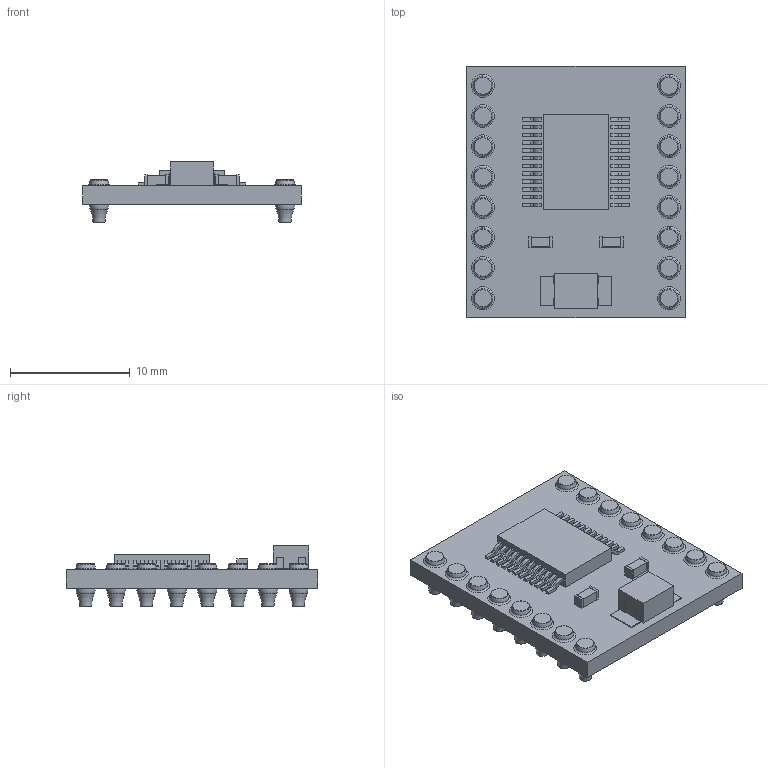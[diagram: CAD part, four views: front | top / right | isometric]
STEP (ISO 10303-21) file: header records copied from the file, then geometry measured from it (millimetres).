
FILE_DESCRIPTION(/* description */ ('STEP AP242 Edition 2','CAx-IF Rec.Pracs.---Representation and Presentation of Product Manufacturing Information (PMI)---4.0---2014-10-13','CAx-IF Rec.Pracs.---3D Tessellated Geometry---0.4---2014-09-14','2;1','CAx-IF Rec.Pracs.---User Defined Attributes---1.5---2016-08-15'),/* implementation_level */ '2;1');
FILE_NAME(/* name */ 'bb_v3 - TB6612FNG_Lower Pins',/* time_stamp */ '2026-05-01T07:59:51Z',/* author */ (''),/* organization */ (''),/* preprocessor_version */ 'ST-DEVELOPER v20',/* originating_system */ 'ONSHAPE BY PTC INC, 1.214',/* authorisation */ ' ');
FILE_SCHEMA (('AP242_MANAGED_MODEL_BASED_3D_ENGINEERING_MIM_LF { 1 0 10303 442 3 1 4 }'));
Length unit declared in the file: metre
Products named in the file (1): TB6612FNG_Lower Pins
Bounding box: 18.25 x 21 x 5.05 mm (x, y, z)
Volume: 715.4 mm3; surface area: 1193.9 mm2
Topology: 1 solids, 17 shells, 526 faces, 1336 edges, 880 vertices
Faces by surface type: plane 334, cylinder 112, torus 80
Full cylindrical faces by diameter (mm): 1.64 x16
Entity records: 18216 total; most frequent: CARTESIAN_POINT 2583, DIRECTION 2582, ORIENTED_EDGE 2416, EDGE_CURVE 1208, LINE 888, VECTOR 888, VERTEX_POINT 848, AXIS2_PLACEMENT_3D 847
